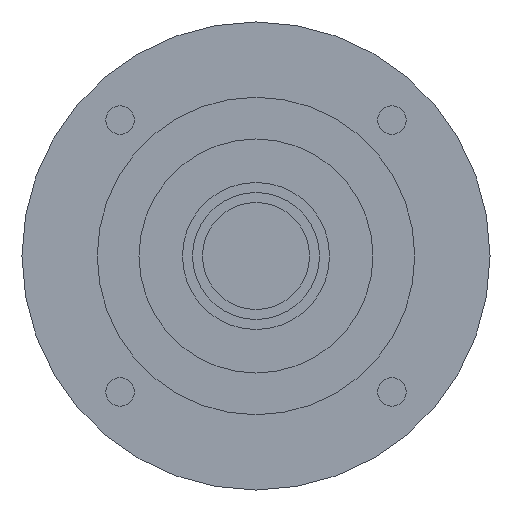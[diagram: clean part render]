
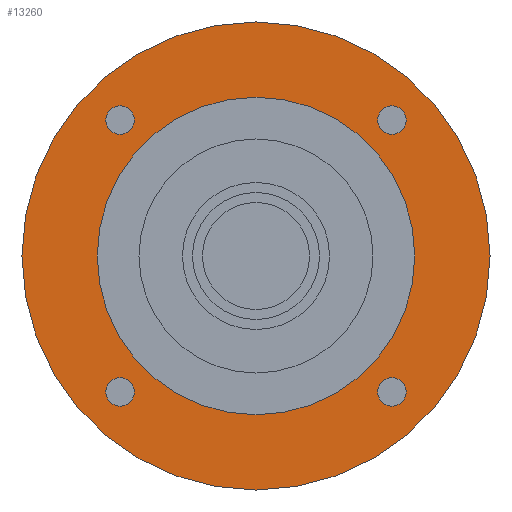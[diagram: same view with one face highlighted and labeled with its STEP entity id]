
A CAD part, left-side view. The second image highlights one B-rep face of the part: STEP entity #13260.
In plain terms, the highlighted planar face has unit normal (-1, 0, 0) as drawn and (0, 0, -1) by its records, which use the part's own axes.
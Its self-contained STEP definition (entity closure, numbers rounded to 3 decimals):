
#12100=CARTESIAN_POINT('',(36.409,-40.659,-84.701));
#12110=VERTEX_POINT('',#12100);
#12140=CARTESIAN_POINT('',(40.659,-40.659,-84.701));
#12150=DIRECTION('',(0.,0.,-1.));
#12160=DIRECTION('',(1.,0.,0.));
#12170=AXIS2_PLACEMENT_3D('',#12140,#12150,#12160);
#12180=CIRCLE('',#12170,4.25);
#12190=CARTESIAN_POINT('',(44.909,-40.659,-84.701));
#12200=VERTEX_POINT('',#12190);
#12210=EDGE_CURVE('',#12200,#12110,#12180,.T.);
#12330=CARTESIAN_POINT('',(0.,0.,
-84.701));
#12340=DIRECTION('',(0.,0.,-1.));
#12350=DIRECTION('',(1.,0.,0.));
#12360=AXIS2_PLACEMENT_3D('',#12330,#12340,#12350);
#12370=PLANE('',#12360);
#12380=CARTESIAN_POINT('',(40.659,40.659,-84.701));
#12390=DIRECTION('',(0.,0.,-1.));
#12400=DIRECTION('',(0.,1.,0.));
#12410=AXIS2_PLACEMENT_3D('',#12380,#12390,#12400);
#12420=CIRCLE('',#12410,4.25);
#12430=CARTESIAN_POINT('',(40.659,44.909,-84.701));
#12440=VERTEX_POINT('',#12430);
#12450=CARTESIAN_POINT('',(40.659,36.409,-84.701));
#12460=VERTEX_POINT('',#12450);
#12470=EDGE_CURVE('',#12440,#12460,#12420,.T.);
#12480=ORIENTED_EDGE('',*,*,#12470,.F.);
#12490=EDGE_CURVE('',#12460,#12440,#12420,.T.);
#12500=ORIENTED_EDGE('',*,*,#12490,.F.);
#12510=EDGE_LOOP('',(#12500,#12480));
#12520=FACE_BOUND('',#12510,.T.);
#12530=CARTESIAN_POINT('',(-40.659,40.659,-84.701));
#12540=DIRECTION('',(0.,0.,-1.));
#12550=DIRECTION('',(-1.,0.,0.));
#12560=AXIS2_PLACEMENT_3D('',#12530,#12540,#12550);
#12570=CIRCLE('',#12560,4.25);
#12580=CARTESIAN_POINT('',(-44.909,40.659,-84.701));
#12590=VERTEX_POINT('',#12580);
#12600=CARTESIAN_POINT('',(-36.409,40.659,-84.701));
#12610=VERTEX_POINT('',#12600);
#12620=EDGE_CURVE('',#12590,#12610,#12570,.T.);
#12630=ORIENTED_EDGE('',*,*,#12620,.F.);
#12640=EDGE_CURVE('',#12610,#12590,#12570,.T.);
#12650=ORIENTED_EDGE('',*,*,#12640,.F.);
#12660=EDGE_LOOP('',(#12650,#12630));
#12670=FACE_BOUND('',#12660,.T.);
#12680=CARTESIAN_POINT('',(-40.659,-40.659,-84.701))
;
#12690=DIRECTION('',(0.,0.,-1.));
#12700=DIRECTION('',(0.,-1.,0.));
#12710=AXIS2_PLACEMENT_3D('',#12680,#12690,#12700);
#12720=CIRCLE('',#12710,4.25);
#12730=CARTESIAN_POINT('',(-40.659,-44.909,-84.701))
;
#12740=VERTEX_POINT('',#12730);
#12750=CARTESIAN_POINT('',(-40.659,-36.409,-84.701))
;
#12760=VERTEX_POINT('',#12750);
#12770=EDGE_CURVE('',#12740,#12760,#12720,.T.);
#12780=ORIENTED_EDGE('',*,*,#12770,.F.);
#12790=EDGE_CURVE('',#12760,#12740,#12720,.T.);
#12800=ORIENTED_EDGE('',*,*,#12790,.F.);
#12810=EDGE_LOOP('',(#12800,#12780));
#12820=FACE_BOUND('',#12810,.T.);
#12830=CARTESIAN_POINT('',(0.,0.,
-84.701));
#12840=DIRECTION('',(0.,0.,1.));
#12850=DIRECTION('',(0.,1.,0.));
#12860=AXIS2_PLACEMENT_3D('',#12830,#12840,#12850);
#12870=CIRCLE('',#12860,47.5);
#12880=CARTESIAN_POINT('',(-47.5,0.,-84.701));
#12890=VERTEX_POINT('',#12880);
#12900=CARTESIAN_POINT('',(47.5,0.,-84.701));
#12910=VERTEX_POINT('',#12900);
#12920=EDGE_CURVE('',#12890,#12910,#12870,.T.);
#12930=ORIENTED_EDGE('',*,*,#12920,.T.);
#12940=CARTESIAN_POINT('',(0.,47.5,-84.701));
#12950=VERTEX_POINT('',#12940);
#12960=EDGE_CURVE('',#12950,#12890,#12870,.T.);
#12970=ORIENTED_EDGE('',*,*,#12960,.T.);
#12980=EDGE_CURVE('',#12910,#12950,#12870,.T.);
#12990=ORIENTED_EDGE('',*,*,#12980,.T.);
#13000=EDGE_LOOP('',(#12990,#12970,#12930));
#13010=FACE_BOUND('',#13000,.T.);
#13020=ORIENTED_EDGE('',*,*,#12210,.F.);
#13030=EDGE_CURVE('',#12110,#12200,#12180,.T.);
#13040=ORIENTED_EDGE('',*,*,#13030,.F.);
#13050=EDGE_LOOP('',(#13040,#13020));
#13060=FACE_BOUND('',#13050,.T.);
#13070=CARTESIAN_POINT('',(0.,0.,
-84.701));
#13080=DIRECTION('',(0.,0.,-1.));
#13090=DIRECTION('',(0.,-1.,0.));
#13100=AXIS2_PLACEMENT_3D('',#13070,#13080,#13090);
#13110=CIRCLE('',#13100,70.);
#13120=CARTESIAN_POINT('',(-70.,0.,-84.701));
#13130=VERTEX_POINT('',#13120);
#13140=CARTESIAN_POINT('',(70.,0.,-84.701));
#13150=VERTEX_POINT('',#13140);
#13160=EDGE_CURVE('',#13130,#13150,#13110,.T.);
#13170=ORIENTED_EDGE('',*,*,#13160,.T.);
#13180=CARTESIAN_POINT('',(0.,-70.,-84.701));
#13190=VERTEX_POINT('',#13180);
#13200=EDGE_CURVE('',#13190,#13130,#13110,.T.);
#13210=ORIENTED_EDGE('',*,*,#13200,.T.);
#13220=EDGE_CURVE('',#13150,#13190,#13110,.T.);
#13230=ORIENTED_EDGE('',*,*,#13220,.T.);
#13240=EDGE_LOOP('',(#13230,#13210,#13170));
#13250=FACE_OUTER_BOUND('',#13240,.T.);
#13260=ADVANCED_FACE('',(#12520,#12670,#12820,#13010,#13060,#13250),
#12370,.T.);
